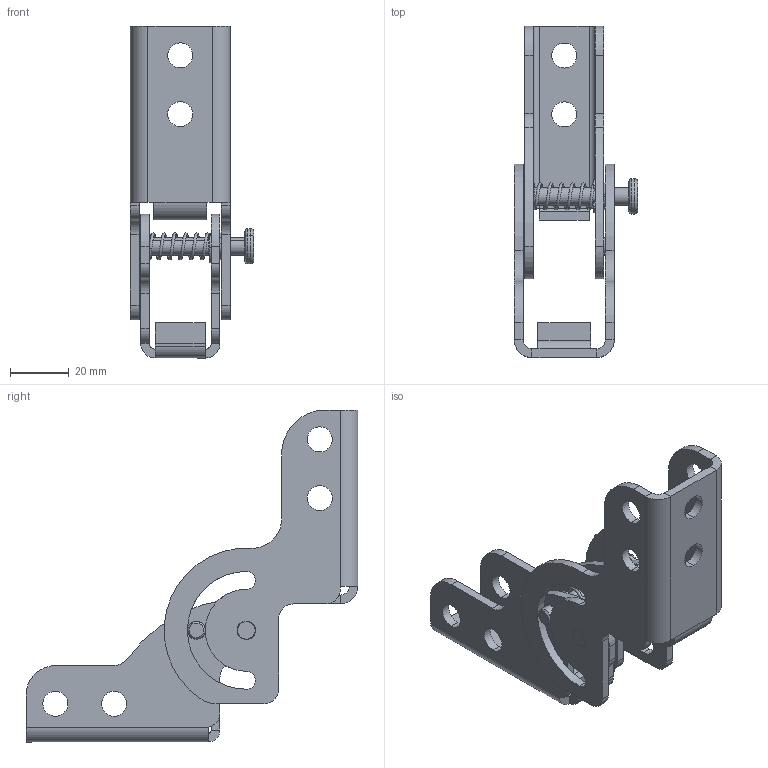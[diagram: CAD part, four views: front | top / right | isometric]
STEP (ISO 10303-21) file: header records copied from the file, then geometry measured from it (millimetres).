
FILE_DESCRIPTION (( 'STEP AP214' ), '1' );
FILE_NAME ('3.ST310.001 - 90.STEP', '2026-02-06T10:08:27', ( '' ), ( '' ), 'SwSTEP 2.0', 'SolidWorks 2021', '' );
FILE_SCHEMA (( 'AUTOMOTIVE_DESIGN' ));
Length unit declared in the file: millimetre
Products named in the file (7): P.051001_00-01; P.051018_00-01; P.050994_00-01; P.051017_00-01; 3.ST310.001 - 90; DIN 6799_5-ST-OC; P.052269_00-01
Assembly tree (7 placements, depth 2):
  3.ST310.001 - 90
    P.051017_00-01
    P.051018_00-01
    P.051001_00-01  x2
    P.050994_00-01
    P.052269_00-01
    DIN 6799_5-ST-OC
Bounding box: 42 x 113 x 113 mm (x, y, z)
Volume: 42311 mm3; surface area: 34168.1 mm2
Topology: 9 solids, 9 shells, 439 faces, 1191 edges, 774 vertices
Faces by surface type: plane 284, cylinder 135, bspline 10, cone 6, torus 4
Entity records: 14265 total; most frequent: CARTESIAN_POINT 5376, DIRECTION 1873, ORIENTED_EDGE 1762, EDGE_CURVE 881, AXIS2_PLACEMENT_3D 673, VERTEX_POINT 568, VECTOR 527, LINE 527
